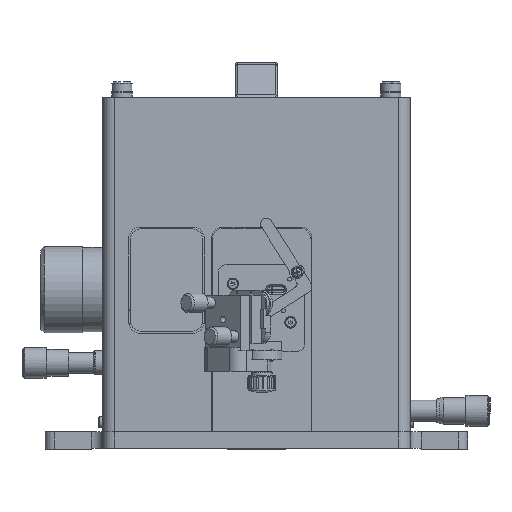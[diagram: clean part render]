
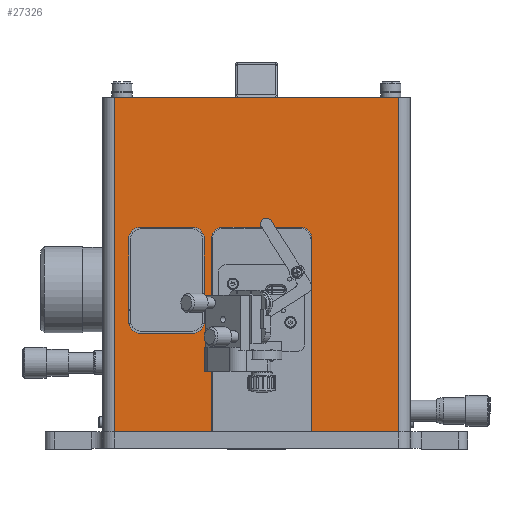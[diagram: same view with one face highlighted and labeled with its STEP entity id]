
A CAD part, front view. The second image highlights one B-rep face of the part: STEP entity #27326.
In plain terms, the highlighted planar face has unit normal (0, -1, 0).
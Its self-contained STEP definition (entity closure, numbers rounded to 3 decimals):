
#718=FACE_BOUND('',#4856,.T.);
#1552=CIRCLE('',#29358,6.);
#1554=CIRCLE('',#29362,6.);
#1556=CIRCLE('',#29366,6.);
#1558=CIRCLE('',#29370,6.);
#1607=CIRCLE('',#29462,6.);
#1608=CIRCLE('',#29463,6.);
#3468=FACE_OUTER_BOUND('',#4855,.T.);
#4855=EDGE_LOOP('',(#21689,#21690,#21691,#21692,#21693,#21694,#21695,#21696,
#21697,#21698));
#4856=EDGE_LOOP('',(#21699,#21700,#21701,#21702,#21703,#21704,#21705,#21706));
#6609=LINE('',#42674,#9261);
#6614=LINE('',#42687,#9266);
#6618=LINE('',#42699,#9270);
#6622=LINE('',#42711,#9274);
#6633=LINE('',#42743,#9285);
#6724=LINE('',#43003,#9376);
#6725=LINE('',#43007,#9377);
#6728=LINE('',#43015,#9380);
#6733=LINE('',#43029,#9385);
#6734=LINE('',#43034,#9386);
#6735=LINE('',#43036,#9387);
#6736=LINE('',#43037,#9388);
#9261=VECTOR('',#33677,10.);
#9266=VECTOR('',#33690,10.);
#9270=VECTOR('',#33702,10.);
#9274=VECTOR('',#33714,10.);
#9285=VECTOR('',#33743,10.);
#9376=VECTOR('',#33978,10.);
#9377=VECTOR('',#33983,10.);
#9380=VECTOR('',#33992,10.);
#9385=VECTOR('',#34013,10.);
#9386=VECTOR('',#34018,10.);
#9387=VECTOR('',#34019,10.);
#9388=VECTOR('',#34020,10.);
#12125=VERTEX_POINT('',#42671);
#12126=VERTEX_POINT('',#42673);
#12128=VERTEX_POINT('',#42679);
#12130=VERTEX_POINT('',#42685);
#12132=VERTEX_POINT('',#42691);
#12134=VERTEX_POINT('',#42697);
#12136=VERTEX_POINT('',#42703);
#12138=VERTEX_POINT('',#42709);
#12149=VERTEX_POINT('',#42740);
#12150=VERTEX_POINT('',#42742);
#12246=VERTEX_POINT('',#43000);
#12247=VERTEX_POINT('',#43002);
#12248=VERTEX_POINT('',#43006);
#12250=VERTEX_POINT('',#43014);
#12251=VERTEX_POINT('',#43028);
#12252=VERTEX_POINT('',#43031);
#12253=VERTEX_POINT('',#43033);
#12254=VERTEX_POINT('',#43035);
#15952=EDGE_CURVE('',#12126,#12125,#6609,.T.);
#15956=EDGE_CURVE('',#12125,#12128,#1552,.T.);
#15959=EDGE_CURVE('',#12128,#12130,#6614,.T.);
#15962=EDGE_CURVE('',#12130,#12132,#1554,.T.);
#15965=EDGE_CURVE('',#12132,#12134,#6618,.T.);
#15968=EDGE_CURVE('',#12134,#12136,#1556,.T.);
#15971=EDGE_CURVE('',#12136,#12138,#6622,.T.);
#15973=EDGE_CURVE('',#12138,#12126,#1558,.T.);
#15986=EDGE_CURVE('',#12150,#12149,#6633,.T.);
#16119=EDGE_CURVE('',#12247,#12246,#6724,.T.);
#16121=EDGE_CURVE('',#12247,#12248,#6725,.T.);
#16126=EDGE_CURVE('',#12248,#12250,#6728,.T.);
#16132=EDGE_CURVE('',#12246,#12251,#6733,.T.);
#16133=EDGE_CURVE('',#12251,#12150,#1607,.T.);
#16134=EDGE_CURVE('',#12149,#12252,#1608,.T.);
#16135=EDGE_CURVE('',#12252,#12253,#6734,.T.);
#16136=EDGE_CURVE('',#12253,#12254,#6735,.T.);
#16137=EDGE_CURVE('',#12254,#12250,#6736,.T.);
#21689=ORIENTED_EDGE('',*,*,#16132,.T.);
#21690=ORIENTED_EDGE('',*,*,#16133,.T.);
#21691=ORIENTED_EDGE('',*,*,#15986,.T.);
#21692=ORIENTED_EDGE('',*,*,#16134,.T.);
#21693=ORIENTED_EDGE('',*,*,#16135,.T.);
#21694=ORIENTED_EDGE('',*,*,#16136,.T.);
#21695=ORIENTED_EDGE('',*,*,#16137,.T.);
#21696=ORIENTED_EDGE('',*,*,#16126,.F.);
#21697=ORIENTED_EDGE('',*,*,#16121,.F.);
#21698=ORIENTED_EDGE('',*,*,#16119,.T.);
#21699=ORIENTED_EDGE('',*,*,#15971,.T.);
#21700=ORIENTED_EDGE('',*,*,#15973,.T.);
#21701=ORIENTED_EDGE('',*,*,#15952,.T.);
#21702=ORIENTED_EDGE('',*,*,#15956,.T.);
#21703=ORIENTED_EDGE('',*,*,#15959,.T.);
#21704=ORIENTED_EDGE('',*,*,#15962,.T.);
#21705=ORIENTED_EDGE('',*,*,#15965,.T.);
#21706=ORIENTED_EDGE('',*,*,#15968,.T.);
#26433=PLANE('',#29461);
#27326=ADVANCED_FACE('',(#3468,#718),#26433,.T.);
#29358=AXIS2_PLACEMENT_3D('',#42681,#33684,#33685);
#29362=AXIS2_PLACEMENT_3D('',#42693,#33696,#33697);
#29366=AXIS2_PLACEMENT_3D('',#42705,#33708,#33709);
#29370=AXIS2_PLACEMENT_3D('',#42714,#33719,#33720);
#29461=AXIS2_PLACEMENT_3D('',#43027,#34011,#34012);
#29462=AXIS2_PLACEMENT_3D('',#43030,#34014,#34015);
#29463=AXIS2_PLACEMENT_3D('',#43032,#34016,#34017);
#33677=DIRECTION('',(-1.,0.,0.));
#33684=DIRECTION('center_axis',(0.,1.,0.));
#33685=DIRECTION('ref_axis',(1.,0.,0.));
#33690=DIRECTION('',(0.,0.,1.));
#33696=DIRECTION('center_axis',(0.,1.,0.));
#33697=DIRECTION('ref_axis',(0.,0.,
-1.));
#33702=DIRECTION('',(1.,0.,0.));
#33708=DIRECTION('center_axis',(0.,1.,0.));
#33709=DIRECTION('ref_axis',(-1.,0.,0.));
#33714=DIRECTION('',(0.,0.,-1.));
#33719=DIRECTION('center_axis',(0.,1.,0.));
#33720=DIRECTION('ref_axis',(0.,0.,
1.));
#33743=DIRECTION('',(1.,0.,0.));
#33978=DIRECTION('',(1.,0.,0.));
#33983=DIRECTION('',(0.,0.,1.));
#33992=DIRECTION('',(1.,0.,0.));
#34011=DIRECTION('center_axis',(0.,-1.,0.));
#34012=DIRECTION('ref_axis',(1.,0.,0.));
#34013=DIRECTION('',(0.,0.,1.));
#34014=DIRECTION('center_axis',(0.,1.,0.));
#34015=DIRECTION('ref_axis',(0.,0.,
1.));
#34016=DIRECTION('center_axis',(0.,1.,0.));
#34017=DIRECTION('ref_axis',(1.,0.,0.));
#34018=DIRECTION('',(0.,0.,-1.));
#34019=DIRECTION('',(1.,0.,0.));
#34020=DIRECTION('',(0.,0.,1.));
#42671=CARTESIAN_POINT('',(19.551,-5.391,51.3));
#42673=CARTESIAN_POINT('',(46.851,-5.391,51.3));
#42674=CARTESIAN_POINT('',(26.401,-5.391,51.3));
#42679=CARTESIAN_POINT('',(13.551,-5.391,57.3));
#42681=CARTESIAN_POINT('Origin',(19.551,-5.391,57.3));
#42685=CARTESIAN_POINT('',(13.551,-5.391,100.5));
#42687=CARTESIAN_POINT('',(13.551,-5.391,28.65));
#42691=CARTESIAN_POINT('',(19.551,-5.391,106.5));
#42693=CARTESIAN_POINT('Origin',(19.551,-5.391,100.5));
#42697=CARTESIAN_POINT('',(46.851,-5.391,106.5));
#42699=CARTESIAN_POINT('',(12.751,-5.391,106.5));
#42703=CARTESIAN_POINT('',(52.851,-5.391,100.5));
#42705=CARTESIAN_POINT('Origin',(46.851,-5.391,100.5));
#42709=CARTESIAN_POINT('',(52.851,-5.391,57.3));
#42711=CARTESIAN_POINT('',(52.851,-5.391,50.25));
#42714=CARTESIAN_POINT('Origin',(46.851,-5.391,57.3));
#42740=CARTESIAN_POINT('',(102.851,-5.391,106.5));
#42742=CARTESIAN_POINT('',(62.551,-5.391,106.5));
#42743=CARTESIAN_POINT('',(34.251,-5.391,106.5));
#43000=CARTESIAN_POINT('',(56.551,-5.391,0.));
#43002=CARTESIAN_POINT('',(5.951,-5.391,0.));
#43003=CARTESIAN_POINT('',(5.951,-5.391,0.));
#43006=CARTESIAN_POINT('',(5.951,-5.391,174.));
#43007=CARTESIAN_POINT('',(5.951,-5.391,0.));
#43014=CARTESIAN_POINT('',(153.951,-5.391,174.));
#43015=CARTESIAN_POINT('',(5.951,-5.391,174.));
#43027=CARTESIAN_POINT('Origin',(5.951,-5.391,0.));
#43028=CARTESIAN_POINT('',(56.551,-5.391,100.5));
#43029=CARTESIAN_POINT('',(56.551,-5.391,0.));
#43030=CARTESIAN_POINT('Origin',(62.551,-5.391,100.5));
#43031=CARTESIAN_POINT('',(108.851,-5.391,100.5));
#43032=CARTESIAN_POINT('Origin',(102.851,-5.391,100.5));
#43033=CARTESIAN_POINT('',(108.851,-5.391,0.));
#43034=CARTESIAN_POINT('',(108.851,-5.391,50.25));
#43035=CARTESIAN_POINT('',(153.951,-5.391,0.));
#43036=CARTESIAN_POINT('',(5.951,-5.391,0.));
#43037=CARTESIAN_POINT('',(153.951,-5.391,0.));
